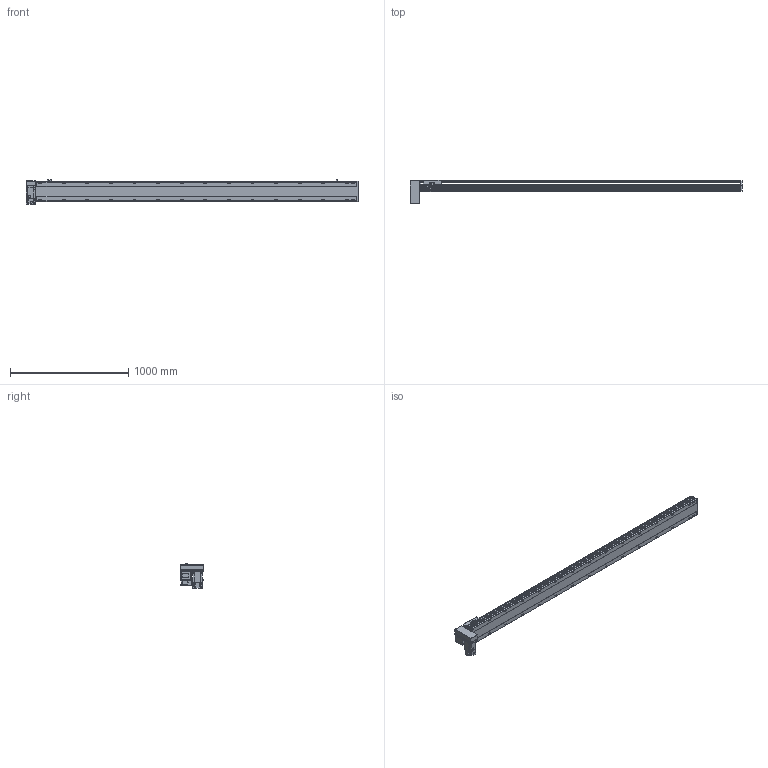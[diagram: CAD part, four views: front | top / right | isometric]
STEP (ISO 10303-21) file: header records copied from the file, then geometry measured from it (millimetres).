
FILE_DESCRIPTION( ( 'STEP AP214' ), '1' );
FILE_NAME( 'x:/temp/worker_5/temp/exporttempdir_3988_46_AqjZJ/format_0/PBS170-P40-S2450-RD-T75-C1-N(0).stp', '2022-06-08T05:37:47', ( 'License CC BY-ND 4.0' ), ( 'CADENAS' ), ' ', 'PARTsolutions', ' ' );
FILE_SCHEMA( ( 'AUTOMOTIVE_DESIGN { 1 0 10303 214 1 1 1 1 }' ) );
Length unit declared in the file: millimetre
Products named in the file (7): PBS170-P40-S2450-RD-T75-C1-N(0); _PBS170-S2450()_body; _PBS170T-RD_motors; _T75-p1; _PBS170_sliser; _PBS170_plant; _PBS170_sensor
Assembly tree (8 placements, depth 2):
  PBS170-P40-S2450-RD-T75-C1-N(0)
    _PBS170-S2450()_body
    _PBS170T-RD_motors
    _T75-p1
    _PBS170_sliser
    _PBS170_plant
    _PBS170_sensor  x3
Bounding box: 2813 x 201 x 205.3 mm (x, y, z)
Volume: 21319367.1 mm3; surface area: 2687759.7 mm2
Topology: 8 solids, 8 shells, 1194 faces, 3155 edges, 2056 vertices
Faces by surface type: plane 729, cylinder 395, cone 60, sphere 8, torus 2
Full cylindrical faces by diameter (mm): 3.242 x4, 4 x2, 4.4 x4, 4.5 x6, 4.917 x4, 6 x9, 6.647 x38, 7 x2, 7.5 x4, 8 x8, 8.5 x30, 10 x4, 10.5 x30, 11 x2, 30 x2, 40 x1, 70 x1
Entity records: 44234 total; most frequent: CARTESIAN_POINT 7397, DIRECTION 5790, ORIENTED_EDGE 5448, EDGE_CURVE 2724, AXIS2_PLACEMENT_3D 2047, VERTEX_POINT 1898, LINE 1696, VECTOR 1696
